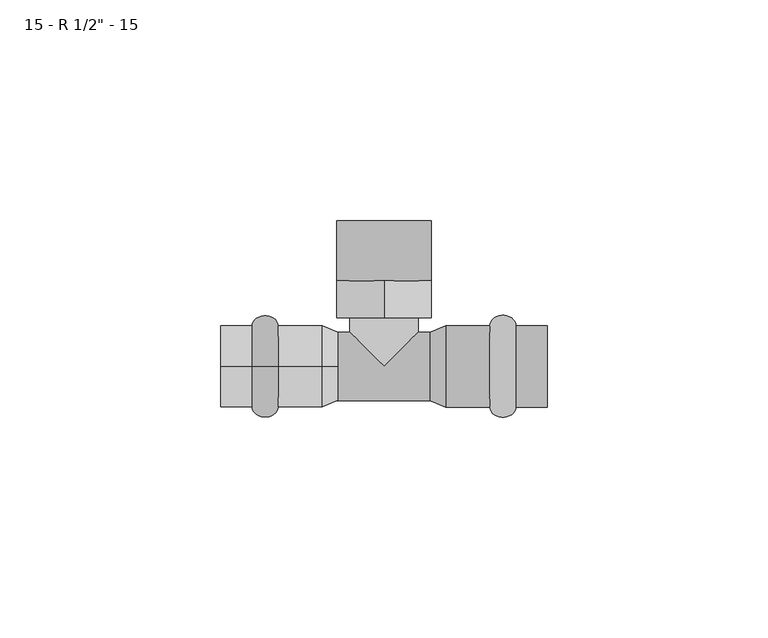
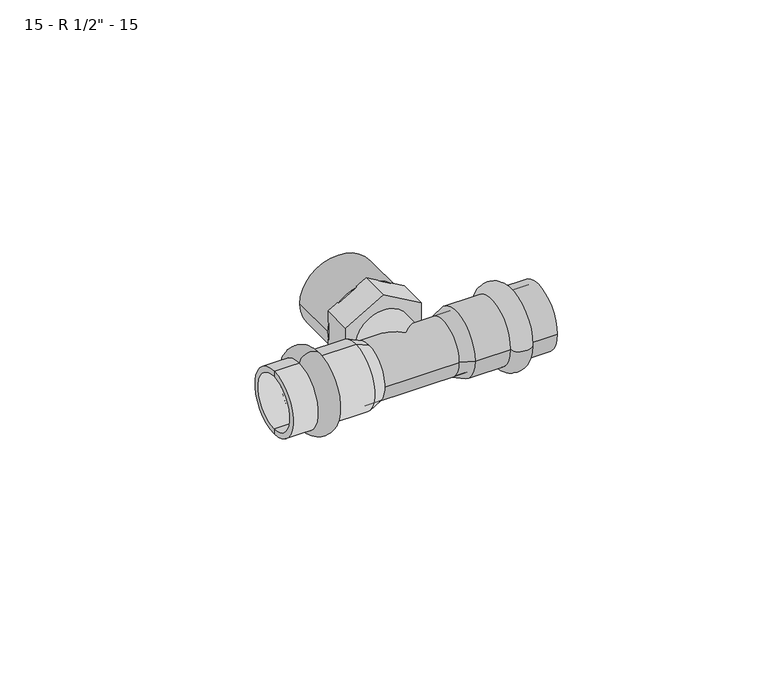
"""IFC4 building model written with IfcOpenShell, lengths in millimetres: pipe fitting geometry."""

from ifc_helpers import new_model, si_unit, point, frame, origin, origin_2d, place, context, project, spatial, polyline, circle_curve, ellipse_curve, trimmed, segment, composite_curve, outline, extrude, source, transform, mapped, element, save
from ifc_brep_helpers import plane_surface, cylinder_surface, revolved_surface, advanced_brep


def pipe_fitting_668c9f82(model_context):
    return source(origin(), model_context, "Body", "SolidModel", [
        advanced_brep(
        [(29.9, 9.25, 0.0), (29.9, -9.25, 0.0), (24.0, -9.25, 0.0), (24.0, 9.25, 0.0)],
        [
            (0, 1, circle_curve(frame((29.9, 0.0, 0.0), z_axis=(1.0, 0.0, 0.0), x_axis=(0.0, -1.0, 0.0)), 9.25)),
            (1, 2),
            (2, 3, circle_curve(frame((24.0, 0.0, 0.0), z_axis=(-1.0, 0.0, 0.0), x_axis=(0.0, -1.0, 0.0)), 9.25)),
            (3, 0),
            (1, 0, circle_curve(frame((29.9, 0.0, 0.0), z_axis=(1.0, 0.0, 0.0), x_axis=(0.0, -1.0, 0.0)), 9.25)),
            (3, 2, circle_curve(frame((24.0, 0.0, 0.0), z_axis=(-1.0, 0.0, 0.0), x_axis=(0.0, -1.0, 0.0)), 9.25)),
            (2, 1, ellipse_curve(frame((26.95, -9.25, 0.0), z_axis=(0.0, 0.0, 1.0), x_axis=(1.0, 0.0, 0.0)), 2.95, 2.3)),
            (0, 3, ellipse_curve(frame((26.95, 9.25, 0.0), z_axis=(0.0, 0.0, 1.0), x_axis=(1.0, 0.0, 0.0)), 2.95, 2.3)),
        ],
        [
            revolved_surface(polyline([(24.0, -9.25, 0.0), (29.9, -9.25, 0.0)]), (11.0, 0.0, 0.0), (-1.0, 0.0, 0.0)),
            revolved_surface(trimmed(ellipse_curve(frame((26.95, -9.25, 0.0), z_axis=(0.0, 0.0, -1.0), x_axis=(1.0, 0.0, 0.0)), 2.95, 2.3), [point((29.9, -9.25, 0.0))], [point((24.0, -9.25, 0.0))], True, "CARTESIAN"), (11.0, 0.0, 0.0), (-1.0, 0.0, 0.0)),
        ],
        [
            (0, [[1, 2, 3, 4]]),
            (0, [[5, -4, 6, -2]]),
            (1, [[-3, 7, -1, 8]]),
            (1, [[-6, -8, -5, -7]]),
        ],
    ),
        advanced_brep(
        [(10.4662215, 7.75, 0.0), (10.4662215, -7.75, 0.0), (14.0, -9.25, 0.0), (14.0, 9.25, 0.0), (37.0, 7.75, 0.0), (37.0, -7.75, 0.0), (37.0, 9.25, 0.0), (37.0, -9.25, 0.0)],
        [
            (0, 1, circle_curve(frame((10.4662215, 0.0, 0.0), z_axis=(1.0, 0.0, 0.0), x_axis=(0.0, -1.0, 0.0)), 7.75)),
            (1, 2),
            (2, 3, circle_curve(frame((14.0, 0.0, 0.0), z_axis=(-1.0, 0.0, 0.0), x_axis=(0.0, -1.0, 0.0)), 9.25)),
            (3, 0),
            (1, 0, circle_curve(frame((10.4662215, 0.0, 0.0), z_axis=(1.0, 0.0, 0.0), x_axis=(0.0, -1.0, 0.0)), 7.75)),
            (3, 2, circle_curve(frame((14.0, 0.0, 0.0), z_axis=(-1.0, 0.0, 0.0), x_axis=(0.0, -1.0, 0.0)), 9.25)),
            (4, 5, circle_curve(frame((37.0, 0.0, 0.0), z_axis=(1.0, 0.0, 0.0), x_axis=(0.0, -1.0, 0.0)), 7.75)),
            (5, 1),
            (0, 4),
            (5, 4, circle_curve(frame((37.0, 0.0, 0.0), z_axis=(1.0, 0.0, 0.0), x_axis=(0.0, -1.0, 0.0)), 7.75)),
            (6, 7, circle_curve(frame((37.0, 0.0, 0.0), z_axis=(1.0, 0.0, 0.0), x_axis=(0.0, -1.0, 0.0)), 9.25)),
            (7, 5),
            (4, 6),
            (7, 6, circle_curve(frame((37.0, 0.0, 0.0), z_axis=(1.0, 0.0, 0.0), x_axis=(0.0, -1.0, 0.0)), 9.25)),
            (2, 7),
            (6, 3),
        ],
        [
            revolved_surface(polyline([(14.0, -9.25, 0.0), (10.4662215, -7.75, 0.0)]), (11.0, 0.0, 0.0), (-1.0, 0.0, 0.0)),
            revolved_surface(polyline([(10.4662215, -7.75, 0.0), (37.0, -7.75, 0.0)]), (11.0, 0.0, 0.0), (-1.0, 0.0, 0.0)),
            plane_surface(frame((37.0, 0.0, 0.0), z_axis=(1.0, 0.0, 0.0), x_axis=(0.0, -1.0, 0.0))),
            cylinder_surface(frame((11.0, 0.0, 0.0), z_axis=(-1.0, 0.0, 0.0), x_axis=(0.0, -1.0, 0.0)), 9.25),
        ],
        [
            (0, [[1, 2, 3, 4]]),
            (0, [[5, -4, 6, -2]]),
            (1, [[7, 8, -1, 9]]),
            (1, [[10, -9, -5, -8]]),
            (2, [[11, 12, -7, 13]]),
            (2, [[14, -13, -10, -12]]),
            (3, [[-3, 15, -11, 16]]),
            (3, [[-6, -16, -14, -15]]),
        ],
    ),
        advanced_brep(
        [(-29.9, 0.0, 9.25), (-29.9, 0.0, -9.25), (-24.0, 0.0, -9.25), (-24.0, 0.0, 9.25)],
        [
            (0, 1, circle_curve(frame((-29.9, 0.0, 0.0), z_axis=(-1.0, 0.0, 0.0), x_axis=(0.0, 0.0, -1.0)), 9.25)),
            (1, 2),
            (2, 3, circle_curve(frame((-24.0, 0.0, 0.0), z_axis=(1.0, 0.0, 0.0), x_axis=(0.0, 0.0, -1.0)), 9.25)),
            (3, 0),
            (1, 0, circle_curve(frame((-29.9, 0.0, 0.0), z_axis=(-1.0, 0.0, 0.0), x_axis=(0.0, 0.0, -1.0)), 9.25)),
            (3, 2, circle_curve(frame((-24.0, 0.0, 0.0), z_axis=(1.0, 0.0, 0.0), x_axis=(0.0, 0.0, -1.0)), 9.25)),
            (2, 1, ellipse_curve(frame((-26.95, 0.0, -9.25), z_axis=(0.0, 1.0, 0.0), x_axis=(-1.0, 0.0, 0.0)), 2.95, 2.3)),
            (0, 3, ellipse_curve(frame((-26.95, 0.0, 9.25), z_axis=(0.0, 1.0, 0.0), x_axis=(-1.0, 0.0, 0.0)), 2.95, 2.3)),
        ],
        [
            revolved_surface(polyline([(-24.0, 0.0, -9.25), (-29.9, 0.0, -9.25)]), (-11.0, 0.0, 0.0), (1.0, 0.0, 0.0)),
            revolved_surface(trimmed(ellipse_curve(frame((-26.95, 0.0, -9.25), z_axis=(0.0, -1.0, 0.0), x_axis=(-1.0, 0.0, 0.0)), 2.95, 2.3), [point((-29.9, 0.0, -9.25))], [point((-24.0, 0.0, -9.25))], True, "CARTESIAN"), (-11.0, 0.0, 0.0), (1.0, 0.0, 0.0)),
        ],
        [
            (0, [[1, 2, 3, 4]]),
            (0, [[5, -4, 6, -2]]),
            (1, [[-3, 7, -1, 8]]),
            (1, [[-6, -8, -5, -7]]),
        ],
    ),
        advanced_brep(
        [(-10.4662215, 0.0, 7.75), (-10.4662215, 0.0, -7.75), (-14.0, 0.0, -9.25), (-14.0, 0.0, 9.25), (-37.0, 0.0, 7.75), (-37.0, 0.0, -7.75), (-37.0, 0.0, 9.25), (-37.0, 0.0, -9.25)],
        [
            (0, 1, circle_curve(frame((-10.4662215, 0.0, 0.0), z_axis=(-1.0, 0.0, 0.0), x_axis=(0.0, 0.0, -1.0)), 7.75)),
            (1, 2),
            (2, 3, circle_curve(frame((-14.0, 0.0, 0.0), z_axis=(1.0, 0.0, 0.0), x_axis=(0.0, 0.0, -1.0)), 9.25)),
            (3, 0),
            (1, 0, circle_curve(frame((-10.4662215, 0.0, 0.0), z_axis=(-1.0, 0.0, 0.0), x_axis=(0.0, 0.0, -1.0)), 7.75)),
            (3, 2, circle_curve(frame((-14.0, 0.0, 0.0), z_axis=(1.0, 0.0, 0.0), x_axis=(0.0, 0.0, -1.0)), 9.25)),
            (4, 5, circle_curve(frame((-37.0, 0.0, 0.0), z_axis=(-1.0, 0.0, 0.0), x_axis=(0.0, 0.0, -1.0)), 7.75)),
            (5, 1),
            (0, 4),
            (5, 4, circle_curve(frame((-37.0, 0.0, 0.0), z_axis=(-1.0, 0.0, 0.0), x_axis=(0.0, 0.0, -1.0)), 7.75)),
            (6, 7, circle_curve(frame((-37.0, 0.0, 0.0), z_axis=(-1.0, 0.0, 0.0), x_axis=(0.0, 0.0, -1.0)), 9.25)),
            (7, 5),
            (4, 6),
            (7, 6, circle_curve(frame((-37.0, 0.0, 0.0), z_axis=(-1.0, 0.0, 0.0), x_axis=(0.0, 0.0, -1.0)), 9.25)),
            (2, 7),
            (6, 3),
        ],
        [
            revolved_surface(polyline([(-14.0, 0.0, -9.25), (-10.4662215, 0.0, -7.75)]), (-11.0, 0.0, 0.0), (1.0, 0.0, 0.0)),
            revolved_surface(polyline([(-10.4662215, 0.0, -7.75), (-37.0, 0.0, -7.75)]), (-11.0, 0.0, 0.0), (1.0, 0.0, 0.0)),
            plane_surface(frame((-37.0, 0.0, 0.0), z_axis=(-1.0, 0.0, 0.0), x_axis=(0.0, 0.0, -1.0))),
            cylinder_surface(frame((-11.0, 0.0, 0.0), z_axis=(1.0, 0.0, 0.0), x_axis=(0.0, 0.0, -1.0)), 9.25),
        ],
        [
            (0, [[1, 2, 3, 4]]),
            (0, [[5, -4, 6, -2]]),
            (1, [[7, 8, -1, 9]]),
            (1, [[10, -9, -5, -8]]),
            (2, [[11, 12, -7, 13]]),
            (2, [[14, -13, -10, -12]]),
            (3, [[-3, 15, -11, 16]]),
            (3, [[-6, -16, -14, -15]]),
        ],
    ),
        extrude(outline(composite_curve([segment(trimmed(circle_curve(origin_2d(), 10.75), [point((0.0, 10.75))], [point((0.0, -10.75))], False, "CARTESIAN"), True, "CONTINUOUS"), segment(trimmed(circle_curve(origin_2d(), 10.75), [point((0.0, -10.75))], [point((0.0, 10.75))], False, "CARTESIAN"), True, "CONTINUOUS")], self_intersect=False)), frame((0.0, 19.4, 0.0), z_axis=(0.0, 1.0, 0.0), x_axis=(0.0, 0.0, 1.0)), (0.0, 0.0, 1.0), 13.6),
        advanced_brep(
        [(-14.0, -7.75, 0.0), (-14.0, 7.75, 0.0), (14.0, -7.75, 0.0), (14.0, 7.75, 0.0), (7.75, 7.75, 0.0), (0.0, 0.0, 7.75), (-7.75, 7.75, 0.0), (0.0, 0.0, -7.75), (7.75, 11.0, 0.0), (-7.75, 11.0, 0.0)],
        [
            (0, 1, circle_curve(frame((-14.0, 0.0, 0.0), z_axis=(-1.0, 0.0, 0.0), x_axis=(0.0, 1.0, 0.0)), 7.75)),
            (1, 0, circle_curve(frame((-14.0, 0.0, 0.0), z_axis=(-1.0, 0.0, 0.0), x_axis=(0.0, 1.0, 0.0)), 7.75)),
            (2, 3, circle_curve(frame((14.0, 0.0, 0.0), z_axis=(1.0, 0.0, 0.0), x_axis=(0.0, 1.0, 0.0)), 7.75)),
            (3, 2, circle_curve(frame((14.0, 0.0, 0.0), z_axis=(1.0, 0.0, 0.0), x_axis=(0.0, 1.0, 0.0)), 7.75)),
            (0, 2),
            (3, 4),
            (4, 5, ellipse_curve(frame((0.0, 0.0, 0.0), z_axis=(0.7071067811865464, -0.7071067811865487, 0.0), x_axis=(-0.7071067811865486, -0.7071067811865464, 0.0)), 10.9601551, 7.75)),
            (5, 6, ellipse_curve(frame((0.0, 0.0, 0.0), z_axis=(-0.7071067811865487, -0.7071067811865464, 0.0), x_axis=(-0.7071067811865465, 0.7071067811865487, 0.0)), 10.9601551, 7.75)),
            (6, 1),
            (6, 7, ellipse_curve(frame((0.0, 0.0, 0.0), z_axis=(-0.7071067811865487, -0.7071067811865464, 0.0), x_axis=(-0.7071067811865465, 0.7071067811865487, 0.0)), 10.9601551, 7.75)),
            (7, 4, ellipse_curve(frame((0.0, 0.0, 0.0), z_axis=(0.7071067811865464, -0.7071067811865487, 0.0), x_axis=(-0.7071067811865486, -0.7071067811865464, 0.0)), 10.9601551, 7.75)),
            (8, 9, circle_curve(frame((0.0, 11.0, 0.0), z_axis=(0.0, 1.0, 0.0), x_axis=(-1.0, 0.0, 0.0)), 7.75)),
            (9, 8, circle_curve(frame((0.0, 11.0, 0.0), z_axis=(0.0, 1.0, 0.0), x_axis=(-1.0, 0.0, 0.0)), 7.75)),
            (9, 6),
            (4, 8),
        ],
        [
            plane_surface(frame((-14.0, 0.0, 0.0), z_axis=(-1.0, 0.0, 0.0), x_axis=(0.0, 0.0, 1.0))),
            plane_surface(frame((14.0, 0.0, 0.0), z_axis=(1.0, 0.0, 0.0), x_axis=(0.0, 0.0, 1.0))),
            cylinder_surface(frame((-14.0, 0.0, 0.0), z_axis=(-1.0, 0.0, 0.0), x_axis=(0.0, 1.0, 0.0)), 7.75),
            plane_surface(frame((0.0, 11.0, 0.0), z_axis=(0.0, 1.0, 0.0), x_axis=(0.0, 0.0, 1.0))),
            cylinder_surface(frame((0.0, 0.0, 0.0), z_axis=(0.0, -1.0, 0.0), x_axis=(-1.0, 0.0, 0.0)), 7.75),
        ],
        [
            (0, [[1, 2]]),
            (1, [[3, 4]]),
            (2, [[-1, 5, -4, 6, 7, 8, 9]]),
            (2, [[-2, -9, 10, 11, -6, -3, -5]]),
            (3, [[12, 13]]),
            (4, [[-13, 14, -8, -7, 15]]),
            (4, [[-12, -15, -11, -10, -14]]),
        ],
    ),
        extrude(outline(polyline([(6.1487804, 10.65), (12.2975607, 0.0), (6.1487804, -10.65), (-6.1487804, -10.65), (-12.2975607, 0.0), (-6.1487804, 10.65), (6.1487804, 10.65)]), holes=[polyline([(-6.524058, 0.0), (-3.262029, -5.65), (3.262029, -5.65), (6.524058, 0.0), (3.262029, 5.65), (-3.262029, 5.65), (-6.524058, 0.0)])]), frame((0.0, 11.0, 0.0), z_axis=(0.0, 1.0, 0.0), x_axis=(0.0, 0.0, 1.0)), (0.0, 0.0, 1.0), 8.4),
    ])


if __name__ == "__main__":
    model = new_model("IFC4")
    model_context = context("Model", 3, world=origin())
    ifc_project = project(units=[si_unit("LENGTHUNIT", "METRE", prefix="MILLI")], contexts=[model_context])
    site = spatial("IfcSite", under=ifc_project)
    building = spatial("IfcBuilding", under=site)
    placement = place(None, origin())
    pipe_fitting_shape = pipe_fitting_668c9f82(model_context)
    element("IfcPipeFitting", 1, ObjectType="РЕХАУ_Пресс Тройник НР : 15 - R 1/2\" - 15", at=placement, inside=building, context=model_context, shape_type="MappedRepresentation", body=[
        mapped(pipe_fitting_shape, transform((0.0, 0.0, 0.0), x_axis=(1.0, 0.0, 0.0), y_axis=(0.0, 1.0, 0.0), z_axis=(0.0, 0.0, 1.0))),
    ])
    save(model, "model.ifc")
